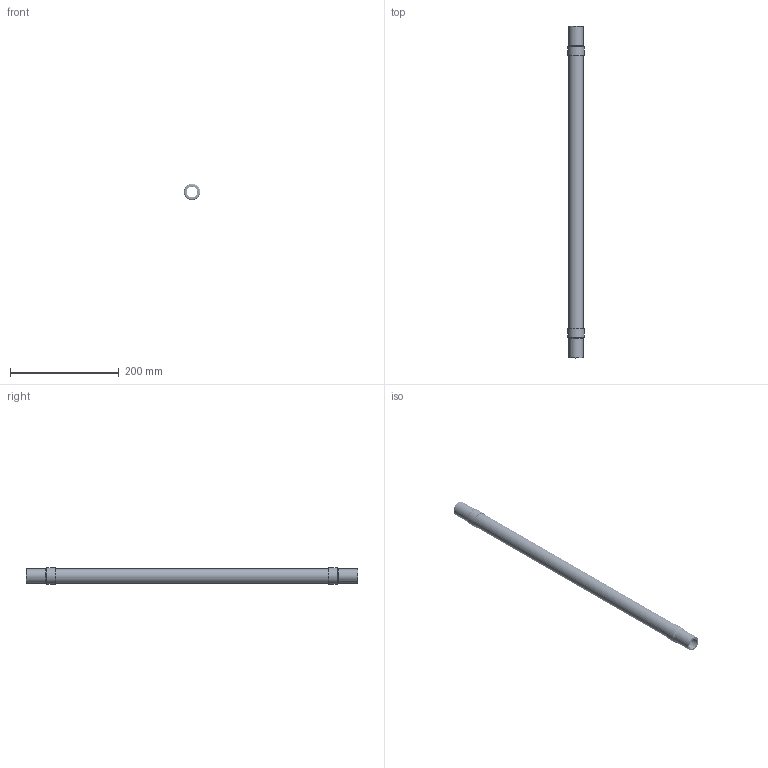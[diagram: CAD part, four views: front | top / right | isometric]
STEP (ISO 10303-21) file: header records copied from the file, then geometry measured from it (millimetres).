
FILE_DESCRIPTION((''),'2;1');
FILE_NAME('C:\2012_Work\Designs\MN\MN-0.75x24.stp','2013-08-09T16:49:47',('KShiels'),(''),'Autodesk Inventor 2012','Autodesk Inventor 2012','');
FILE_SCHEMA(('AUTOMOTIVE_DESIGN { 1 0 10303 214 1 1 1 1 }'));
Length unit declared in the file: inch
Products named in the file (6): MN-0; MN-0_Welds; A-30095-5-0
Assembly tree (7 placements, depth 2):
  MN-0
    MN-0_Welds
    A-30095-5-0
    A-30095-5-0  x2
    A-30095-5-0  x2
    A-30095-5-0
Bounding box: 29.91 x 609.6 x 29.91 mm (x, y, z)
Volume: 63289.4 mm3; surface area: 302686 mm2
Topology: 8 solids, 8 shells, 1150 faces, 1736 edges, 1160 vertices
Faces by surface type: plane 574, torus 562, cylinder 12, bspline 2
Full cylindrical faces by diameter (mm): 20.93 x2, 26.67 x4, 26.924 x1, 27.534 x3, 29.915 x2
Entity records: 23598 total; most frequent: DIRECTION 4582, CARTESIAN_POINT 3949, ORIENTED_EDGE 2296, AXIS2_PLACEMENT_3D 2291, EDGE_LOOP 2282, EDGE_CURVE 1148, VERTEX_POINT 1146, FACE_OUTER_BOUND 1142
